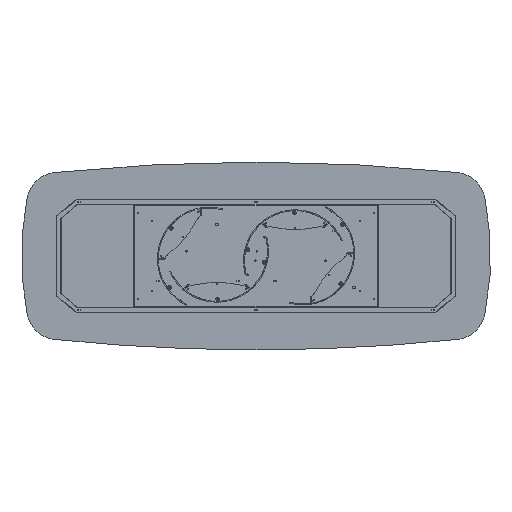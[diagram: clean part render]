
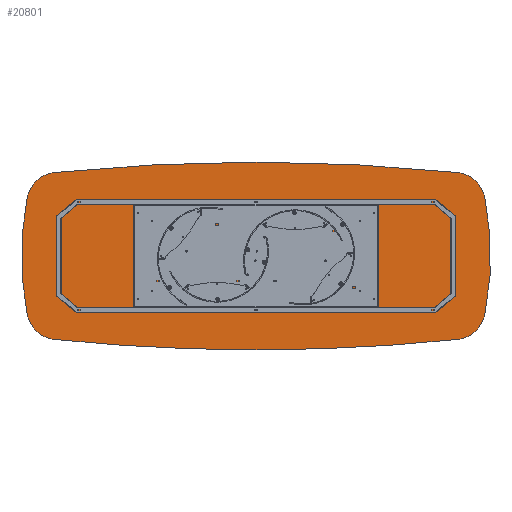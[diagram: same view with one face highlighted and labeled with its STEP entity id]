
A CAD part, front view. The second image highlights one B-rep face of the part: STEP entity #20801.
In plain terms, the highlighted planar face has unit normal (0, -1, 0).
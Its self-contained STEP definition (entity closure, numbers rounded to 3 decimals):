
#116 = VERTEX_POINT ( 'NONE', #6076 ) ;
#408 = CARTESIAN_POINT ( 'NONE',  ( -1266.747, 0., -334.597 ) ) ;
#416 = CARTESIAN_POINT ( 'NONE',  ( -400., 0., 0. ) ) ;
#617 = CIRCLE ( 'NONE', #21353, 12500. ) ;
#716 = ORIENTED_EDGE ( 'NONE', *, *, #18368, .F. ) ;
#1326 = VERTEX_POINT ( 'NONE', #16164 ) ;
#1332 = CARTESIAN_POINT ( 'NONE',  ( -1287.344, 0., 533.533 ) ) ;
#1503 = VERTEX_POINT ( 'NONE', #11560 ) ;
#1659 = PLANE ( 'NONE',  #10542 ) ;
#1672 = AXIS2_PLACEMENT_3D ( 'NONE', #408, #7231, #5567 ) ;
#1769 = DIRECTION ( 'NONE',  ( 0., 1., 0. ) ) ;
#1778 = EDGE_CURVE ( 'NONE', #116, #13302, #617, .T. ) ;
#2021 = EDGE_CURVE ( 'NONE', #5370, #13302, #13888, .T. ) ;
#2126 = CIRCLE ( 'NONE', #5357, 200. ) ;
#2169 = DIRECTION ( 'NONE',  ( 0., -1., 0. ) ) ;
#2191 = EDGE_CURVE ( 'NONE', #14414, #18855, #17437, .T. ) ;
#2281 = DIRECTION ( 'NONE',  ( 0., 0., 1. ) ) ;
#2676 = DIRECTION ( 'NONE',  ( 0., 0., 1. ) ) ;
#2782 = AXIS2_PLACEMENT_3D ( 'NONE', #16338, #8337, #13633 ) ;
#2843 = DIRECTION ( 'NONE',  ( 0., 0., 1. ) ) ;
#4072 = CARTESIAN_POINT ( 'NONE',  ( 1462.835, 0., -373.961 ) ) ;
#4655 = DIRECTION ( 'NONE',  ( 0., 1., 0. ) ) ;
#4791 = EDGE_CURVE ( 'NONE', #5535, #1326, #9607, .T. ) ;
#5063 = ORIENTED_EDGE ( 'NONE', *, *, #7397, .F. ) ;
#5357 = AXIS2_PLACEMENT_3D ( 'NONE', #13860, #2169, #2281 ) ;
#5370 = VERTEX_POINT ( 'NONE', #19815 ) ;
#5535 = VERTEX_POINT ( 'NONE', #1332 ) ;
#5567 = DIRECTION ( 'NONE',  ( 0., 0., 1. ) ) ;
#5874 = ORIENTED_EDGE ( 'NONE', *, *, #16548, .T. ) ;
#6076 = CARTESIAN_POINT ( 'NONE',  ( 0., 0., -600. ) ) ;
#6483 = DIRECTION ( 'NONE',  ( 0., 0., 1. ) ) ;
#6745 = DIRECTION ( 'NONE',  ( 0., 1., 0. ) ) ;
#7231 = DIRECTION ( 'NONE',  ( 0., -1., 0. ) ) ;
#7397 = EDGE_CURVE ( 'NONE', #5370, #1326, #13596, .T. ) ;
#7787 = CARTESIAN_POINT ( 'NONE',  ( 1266.747, 0., 334.597 ) ) ;
#7883 = VERTEX_POINT ( 'NONE', #19216 ) ;
#8337 = DIRECTION ( 'NONE',  ( 0., -1., 0. ) ) ;
#8364 = EDGE_CURVE ( 'NONE', #7883, #18855, #2126, .T. ) ;
#8715 = DIRECTION ( 'NONE',  ( 0., 1., 0. ) ) ;
#8956 = CARTESIAN_POINT ( 'NONE',  ( 1462.835, 0., 373.961 ) ) ;
#9607 = CIRCLE ( 'NONE', #2782, 200. ) ;
#9691 = DIRECTION ( 'NONE',  ( 0., 0., 1. ) ) ;
#9792 = AXIS2_PLACEMENT_3D ( 'NONE', #18377, #14628, #16391 ) ;
#10164 = ORIENTED_EDGE ( 'NONE', *, *, #1778, .F. ) ;
#10252 = ORIENTED_EDGE ( 'NONE', *, *, #20180, .F. ) ;
#10542 = AXIS2_PLACEMENT_3D ( 'NONE', #21912, #1769, #6483 ) ;
#10899 = CIRCLE ( 'NONE', #13034, 12500. ) ;
#11086 = AXIS2_PLACEMENT_3D ( 'NONE', #22061, #6745, #13609 ) ;
#11282 = DIRECTION ( 'NONE',  ( 0., -1., 0. ) ) ;
#11560 = CARTESIAN_POINT ( 'NONE',  ( 1287.344, 0., 533.533 ) ) ;
#12571 = ORIENTED_EDGE ( 'NONE', *, *, #2021, .T. ) ;
#12674 = CARTESIAN_POINT ( 'NONE',  ( 0., 0., 11900. ) ) ;
#13034 = AXIS2_PLACEMENT_3D ( 'NONE', #21636, #4655, #9691 ) ;
#13302 = VERTEX_POINT ( 'NONE', #17025 ) ;
#13596 = CIRCLE ( 'NONE', #11086, 1900. ) ;
#13609 = DIRECTION ( 'NONE',  ( 0., 0., 1. ) ) ;
#13633 = DIRECTION ( 'NONE',  ( 0., 0., 1. ) ) ;
#13766 = CIRCLE ( 'NONE', #9792, 12500. ) ;
#13860 = CARTESIAN_POINT ( 'NONE',  ( 1266.747, 0., -334.597 ) ) ;
#13888 = CIRCLE ( 'NONE', #1672, 200. ) ;
#14384 = ORIENTED_EDGE ( 'NONE', *, *, #2191, .F. ) ;
#14414 = VERTEX_POINT ( 'NONE', #8956 ) ;
#14594 = DIRECTION ( 'NONE',  ( 0., 1., 0. ) ) ;
#14628 = DIRECTION ( 'NONE',  ( 0., 1., 0. ) ) ;
#14877 = ORIENTED_EDGE ( 'NONE', *, *, #4791, .T. ) ;
#15031 = FACE_OUTER_BOUND ( 'NONE', #16810, .T. ) ;
#15303 = AXIS2_PLACEMENT_3D ( 'NONE', #416, #8715, #20888 ) ;
#16164 = CARTESIAN_POINT ( 'NONE',  ( -1462.835, 0., 373.961 ) ) ;
#16338 = CARTESIAN_POINT ( 'NONE',  ( -1266.747, 0., 334.597 ) ) ;
#16391 = DIRECTION ( 'NONE',  ( 0., 0., 1. ) ) ;
#16548 = EDGE_CURVE ( 'NONE', #14414, #1503, #18462, .T. ) ;
#16810 = EDGE_LOOP ( 'NONE', ( #716, #14877, #5063, #12571, #10164, #10252, #19053, #14384, #5874 ) ) ;
#17025 = CARTESIAN_POINT ( 'NONE',  ( -1287.344, 0., -533.533 ) ) ;
#17437 = CIRCLE ( 'NONE', #15303, 1900. ) ;
#17761 = AXIS2_PLACEMENT_3D ( 'NONE', #7787, #11282, #2843 ) ;
#18368 = EDGE_CURVE ( 'NONE', #5535, #1503, #10899, .T. ) ;
#18377 = CARTESIAN_POINT ( 'NONE',  ( 0., 0., 11900. ) ) ;
#18462 = CIRCLE ( 'NONE', #17761, 200. ) ;
#18855 = VERTEX_POINT ( 'NONE', #4072 ) ;
#19053 = ORIENTED_EDGE ( 'NONE', *, *, #8364, .T. ) ;
#19216 = CARTESIAN_POINT ( 'NONE',  ( 1287.344, 0., -533.533 ) ) ;
#19815 = CARTESIAN_POINT ( 'NONE',  ( -1462.835, 0., -373.961 ) ) ;
#20180 = EDGE_CURVE ( 'NONE', #7883, #116, #13766, .T. ) ;
#20801 = ADVANCED_FACE ( 'NONE', ( #15031 ), #1659, .F. ) ;
#20888 = DIRECTION ( 'NONE',  ( 0., 0., 1. ) ) ;
#21353 = AXIS2_PLACEMENT_3D ( 'NONE', #12674, #14594, #2676 ) ;
#21636 = CARTESIAN_POINT ( 'NONE',  ( 0., 0., -11900. ) ) ;
#21912 = CARTESIAN_POINT ( 'NONE',  ( -200., 0., 5950. ) ) ;
#22061 = CARTESIAN_POINT ( 'NONE',  ( 400., 0., 0. ) ) ;
